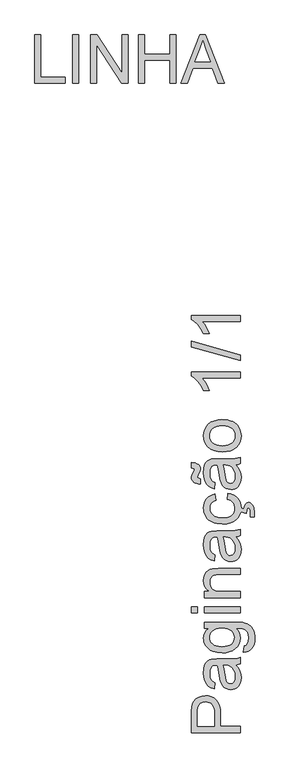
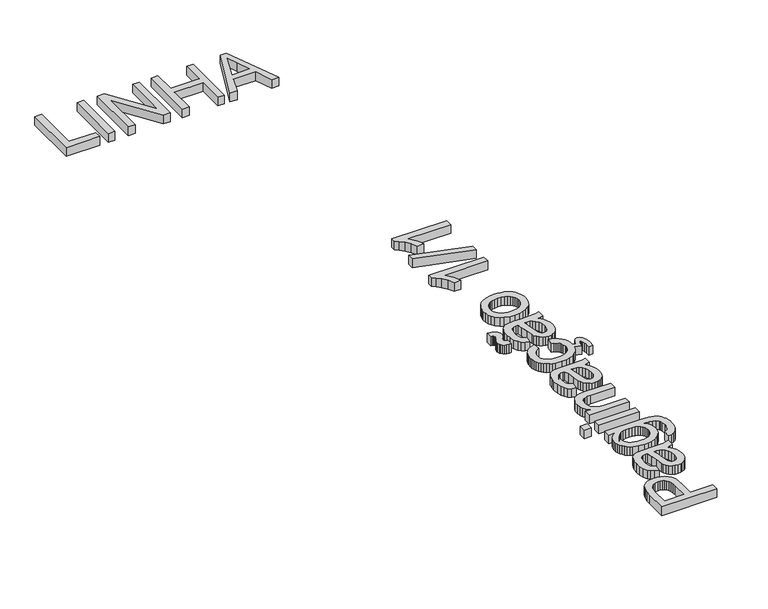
"""IFC4 building model written with IfcOpenShell, lengths in millimetres: proxy geometry, Tabela3D-1linha : Tabela3D-1linha."""

from ifc_helpers import new_model, si_unit, origin, origin_with_axes, place, context, project, spatial, polyline, outline, extrude, source, transform, mapped, element, save


def generic_models_d50637af(model_context):
    return source(origin(), model_context, "Body", "SweptSolid", [
        extrude(outline(polyline([(2936.9308298, 5900.6929749), (2334.1929689, 5900.6929749), (2334.1929689, 6124.0709224), (2335.6277087, 6176.0894365), (2339.9319281, 6214.1284348), (2350.6556882, 6254.2827545), (2368.1116889, 6287.3369518), (2393.0908764, 6313.9532142), (2426.3841969, 6334.7937292), (2465.6555999, 6348.2582102), (2508.5690347, 6352.7463706), (2545.5687663, 6349.7159426), (2579.6070479, 6340.6246588), (2610.6838795, 6325.4725191), (2638.7992609, 6304.2595236), (2662.1045853, 6275.1370651), (2678.7512456, 6236.2565368), (2688.7392418, 6187.6179385), (2692.0685738, 6129.2212703), (2692.0685738, 5976.0352075), (2936.9308298, 5976.0352075), (2936.9308298, 5900.6929749)]), holes=[polyline([(2616.7263412, 5976.0352075), (2616.7263412, 6133.6358542), (2614.9972959, 6169.8722307), (2609.8101597, 6200.4432245), (2601.1649328, 6225.3488356), (2589.0616152, 6244.589064), (2573.8221035, 6258.9456588), (2555.7682946, 6269.2003694), (2534.9001885, 6275.3531958), (2511.217785, 6277.4041379), (2477.3726415, 6272.5664897), (2448.8249986, 6258.053545), (2427.3406901, 6235.6679256), (2414.6855495, 6207.2122533), (2410.8227885, 6178.1495756), (2409.5352016, 6131.8700206), (2409.5352016, 5976.0352075), (2616.7263412, 5976.0352075)])]), origin_with_axes(), (0.0, 0.0, 1.0), 100.0),
        extrude(outline(polyline([(2880.4241554, 6729.4575336), (2911.2894548, 6693.4602804), (2931.4861763, 6656.3961694), (2942.6330008, 6617.419072), (2946.3486089, 6575.6828596), (2944.1137258, 6542.1366202), (2937.4090764, 6512.7198562), (2926.2346608, 6487.4325675), (2910.590479, 6466.2747543), (2891.4698123, 6449.5683132), (2869.8659421, 6437.6351409), (2845.7788685, 6430.4752376), (2819.2085914, 6428.0886032), (2787.97541, 6431.6938467), (2759.6117082, 6442.5095774), (2735.3314965, 6459.1930259), (2716.3487855, 6480.4014229), (2702.0013877, 6505.3254281), (2691.6271155, 6533.155701), (2680.29635, 6598.3443905), (2668.3769734, 6675.3788803), (2654.3974575, 6729.0160752), (2637.6220386, 6729.4575336), (2603.9976242, 6724.2703975), (2591.5448187, 6717.7864773), (2581.9982809, 6708.7089891), (2572.4701372, 6693.018822), (2565.6643203, 6673.9073523), (2560.2196668, 6625.4205054), (2563.8433044, 6580.538902), (2574.7142174, 6549.195356), (2594.8189684, 6527.8214121), (2626.1441203, 6512.8486149), (2616.7263412, 6437.5063822), (2575.5235578, 6450.5845872), (2543.1499422, 6470.100727), (2518.3914839, 6497.8758176), (2500.0341724, 6535.730875), (2488.6666187, 6582.028824), (2484.8774342, 6635.13259), (2488.2251603, 6686.0658523), (2498.2683388, 6726.4409013), (2513.3698947, 6756.8831364), (2531.8927531, 6778.017957), (2554.7934073, 6792.034261), (2583.0283505, 6801.1209463), (2648.952804, 6804.7997662), (2742.6891364, 6804.7997662), (2873.5815503, 6808.625739), (2905.9367717, 6814.2911217), (2936.9308298, 6823.6353244), (2936.9308298, 6748.2930918), (2910.7376318, 6736.2265623), (2880.4241554, 6729.4575336)]), holes=[polyline([(2729.7396902, 6729.4575336), (2742.2844662, 6678.8369711), (2752.8426795, 6607.9093224), (2765.0563617, 6543.0885149), (2773.407283, 6526.2211254), (2784.9219894, 6513.7315316), (2798.7175643, 6506.0060097), (2813.9110907, 6503.4308358), (2836.3151042, 6509.0410362), (2854.6724157, 6525.8716375), (2866.9228862, 6553.5547576), (2871.0063763, 6591.7225146), (2866.4998219, 6632.1895341), (2852.9801585, 6667.947664), (2833.0593485, 6696.9367652), (2809.3493539, 6717.0966986), (2784.9219894, 6726.0362311), (2751.0768459, 6729.0160752), (2729.7396902, 6729.4575336)])]), origin_with_axes(), (0.0, 0.0, 1.0), 100.0),
        extrude(outline(polyline([(2974.6019461, 6889.5597779), (2984.0197252, 6964.9020105), (3007.5641729, 6973.2161436), (3023.7509807, 6989.329375), (3036.3325449, 7021.0040148), (3040.5263997, 7062.4643156), (3035.7807219, 7106.6837315), (3029.8486248, 7124.5444023), (3021.5436887, 7139.5723818), (2998.735005, 7162.3810655), (2968.2743758, 7176.3605814), (2935.8639721, 7180.4440715), (2880.4241554, 7181.5109293), (2905.1458255, 7156.4397713), (2922.8041612, 7128.4623456), (2933.3991627, 7097.5786521), (2936.9308298, 7063.7886908), (2932.8197485, 7022.4801413), (2920.4865047, 6986.1104075), (2899.9310982, 6954.6794896), (2871.1535291, 6928.1873874), (2836.6278039, 6907.1675299), (2798.8279288, 6892.153346), (2757.7539041, 6883.1448356), (2713.4057296, 6880.1419988), (2652.5764417, 6885.5314701), (2596.6399843, 6901.6998838), (2571.417075, 6913.6836397), (2549.2383892, 6928.0770228), (2530.1039269, 6944.8800329), (2514.0136882, 6964.0926701), (2501.2665771, 6985.4068332), (2492.1614977, 7008.5144211), (2486.69845, 7033.4154336), (2484.8774342, 7060.1098709), (2488.9977125, 7095.343769), (2501.3585475, 7127.3219114), (2521.9599393, 7156.0442982), (2550.8018877, 7181.5109293), (2494.2952132, 7181.5109293), (2494.2952132, 7256.8531619), (2876.4510298, 7256.8531619), (2964.6875264, 7251.702814), (2997.5071989, 7245.2648791), (3022.7944875, 7236.2517702), (3043.1889456, 7224.4473566), (3061.3301265, 7209.6355078), (3077.2180302, 7191.8162237), (3090.8526566, 7170.9895042), (3101.797146, 7147.3668816), (3109.6146384, 7121.159888), (3114.3051338, 7092.3685233), (3115.8686323, 7060.9927877), (3113.6659388, 7024.080428), (3107.0578585, 6990.8928735), (3096.0443913, 6961.4301242), (3080.6255372, 6935.6921801), (3060.782902, 6914.9022489), (3036.4980918, 6900.2835381), (3007.7711065, 6891.8360478), (2974.6019461, 6889.5597779)]), holes=[polyline([(2708.2553816, 6955.4842314), (2745.5080322, 6957.4937868), (2777.3620144, 6963.522453), (2803.8173284, 6973.57023), (2824.8739741, 6987.6371178), (2840.9366217, 7004.7390321), (2852.4099414, 7023.8918885), (2859.2939333, 7045.0956869), (2861.5885972, 7068.3504276), (2859.3077289, 7091.3752419), (2852.4651237, 7112.4778729), (2841.0607819, 7131.6583204), (2825.0947033, 7148.9165845), (2804.2449912, 7163.1766104), (2778.1897489, 7173.3623431), (2746.9289764, 7179.4737827), (2710.4626736, 7181.5109293), (2675.5184826, 7179.4140019), (2645.1452254, 7173.1232198), (2619.3429019, 7162.6385829), (2598.1115123, 7147.9600913), (2581.5338299, 7130.3293467), (2569.6926282, 7110.9879508), (2562.5879071, 7089.9359036), (2560.2196668, 7067.1732052), (2562.5511189, 7044.7921843), (2569.5454754, 7024.1494058), (2581.2027361, 7005.2448698), (2597.5229011, 6988.0785762), (2618.432394, 6973.8185504), (2643.8576384, 6963.6328176), (2673.7986343, 6957.521378), (2708.2553816, 6955.4842314)])]), origin_with_axes(), (0.0, 0.0, 1.0), 100.0),
        extrude(outline(polyline([(2409.5352016, 7369.8665108), (2334.1929689, 7369.8665108), (2334.1929689, 7445.2087434), (2409.5352016, 7445.2087434), (2409.5352016, 7369.8665108)])), origin_with_axes(), (0.0, 0.0, 1.0), 100.0),
        extrude(outline(polyline([(2936.9308298, 7369.8665108), (2494.2952132, 7369.8665108), (2494.2952132, 7445.2087434), (2936.9308298, 7445.2087434), (2936.9308298, 7369.8665108)])), origin_with_axes(), (0.0, 0.0, 1.0), 100.0),
        extrude(outline(polyline([(2936.9308298, 7558.2220923), (2494.2952132, 7558.2220923), (2494.2952132, 7633.564325), (2556.0993884, 7633.564325), (2524.9397834, 7659.7391289), (2502.6829227, 7691.1746454), (2489.3288063, 7727.8708744), (2484.8774342, 7769.827816), (2488.4642836, 7806.9655034), (2499.224832, 7840.9761938), (2515.81631, 7869.3398957), (2536.8959483, 7889.5366172), (2562.4085646, 7903.2402215), (2592.2989768, 7912.1245717), (2665.1396118, 7916.0976973), (2936.9308298, 7916.0976973), (2936.9308298, 7840.7554646), (2675.2931549, 7840.7554646), (2636.3344516, 7838.5849609), (2608.6329373, 7832.0734496), (2588.7857037, 7820.0621024), (2573.3898422, 7801.3920912), (2563.5122106, 7777.4613674), (2560.2196668, 7749.6678826), (2562.0682738, 7726.7902211), (2567.6140949, 7705.5404373), (2576.85713, 7685.9185314), (2589.7973792, 7667.9245033), (2607.9063704, 7652.8919253), (2632.6556316, 7642.1543695), (2664.0451629, 7635.7118361), (2702.0749641, 7633.564325), (2936.9308298, 7633.564325), (2936.9308298, 7558.2220923)])), origin_with_axes(), (0.0, 0.0, 1.0), 100.0),
        extrude(outline(polyline([(2880.4241554, 8302.2266394), (2911.2894548, 8266.2293862), (2931.4861763, 8229.1652752), (2942.6330008, 8190.1881778), (2946.3486089, 8148.4519654), (2944.1137258, 8114.905726), (2937.4090764, 8085.4889619), (2926.2346608, 8060.2016733), (2910.590479, 8039.04386), (2891.4698123, 8022.3374189), (2869.8659421, 8010.4042467), (2845.7788685, 8003.2443434), (2819.2085914, 8000.8577089), (2787.97541, 8004.4629525), (2759.6117082, 8015.2786832), (2735.3314965, 8031.9621316), (2716.3487855, 8053.1705287), (2702.0013877, 8078.0945338), (2691.6271155, 8105.9248068), (2680.29635, 8171.1134963), (2668.3769734, 8248.1479861), (2654.3974575, 8301.785181), (2637.6220386, 8302.2266394), (2603.9976242, 8297.0395033), (2591.5448187, 8290.5555831), (2581.9982809, 8281.4780949), (2572.4701372, 8265.7879278), (2565.6643203, 8246.6764581), (2560.2196668, 8198.1896112), (2563.8433044, 8153.3080077), (2574.7142174, 8121.9644618), (2594.8189684, 8100.5905178), (2626.1441203, 8085.6177206), (2616.7263412, 8010.275488), (2575.5235578, 8023.3536929), (2543.1499422, 8042.8698328), (2518.3914839, 8070.6449234), (2500.0341724, 8108.4999807), (2488.6666187, 8154.7979298), (2484.8774342, 8207.9016958), (2488.2251603, 8258.8349581), (2498.2683388, 8299.210007), (2513.3698947, 8329.6522421), (2531.8927531, 8350.7870628), (2554.7934073, 8364.8033668), (2583.0283505, 8373.8900521), (2648.952804, 8377.568872), (2742.6891364, 8377.568872), (2873.5815503, 8381.3948448), (2905.9367717, 8387.0602275), (2936.9308298, 8396.4044302), (2936.9308298, 8321.0621975), (2910.7376318, 8308.9956681), (2880.4241554, 8302.2266394)]), holes=[polyline([(2729.7396902, 8302.2266394), (2742.2844662, 8251.6060769), (2752.8426795, 8180.6784282), (2765.0563617, 8115.8576206), (2773.407283, 8098.9902312), (2784.9219894, 8086.5006374), (2798.7175643, 8078.7751155), (2813.9110907, 8076.1999416), (2836.3151042, 8081.810142), (2854.6724157, 8098.6407433), (2866.9228862, 8126.3238634), (2871.0063763, 8164.4916204), (2866.4998219, 8204.9586399), (2852.9801585, 8240.7167698), (2833.0593485, 8269.705871), (2809.3493539, 8289.8658044), (2784.9219894, 8298.8053368), (2751.0768459, 8301.785181), (2729.7396902, 8302.2266394)])]), origin_with_axes(), (0.0, 0.0, 1.0), 100.0),
        extrude(outline(polyline([(2776.8285855, 8763.6978141), (2786.2463646, 8839.0400468), (2821.7975609, 8830.8454753), (2853.25607, 8818.0339848), (2880.621892, 8800.6055753), (2903.8950267, 8778.5602467), (2922.4684689, 8752.8269012), (2935.7352134, 8724.3344407), (2943.69526, 8693.0828652), (2946.3486089, 8659.0721747), (2946.1709626, 8657.0443586), (2977.8393077, 8646.5641869), (2984.7554892, 8680.5013009), (2997.8520882, 8705.4988825), (3014.958601, 8720.894744), (3033.9045238, 8726.0266978), (3047.8288573, 8724.1688938), (3060.9070622, 8718.5954815), (3073.1391386, 8709.3064612), (3084.5250863, 8696.3018326), (3094.1176093, 8679.5448077), (3100.9694115, 8658.9985983), (3106.4508532, 8606.5386258), (3106.4508532, 8547.0888954), (3059.3619578, 8547.0888954), (3059.3619578, 8588.7331372), (3057.1914541, 8624.1969616), (3050.6799427, 8647.2999509), (3043.3223028, 8656.9016709), (3034.493135, 8660.1022443), (3023.8245571, 8654.9518964), (3015.878306, 8635.895609), (3012.2730625, 8591.823346), (2941.1816396, 8611.8178087), (2931.5413586, 8578.9290821), (2913.0322957, 8545.4104338), (2887.1196077, 8516.2603842), (2854.2907381, 8492.6653527), (2815.0331307, 8475.8117588), (2769.3467855, 8465.6996025), (2717.2317023, 8462.3288837), (2650.1852087, 8468.0862369), (2620.0142866, 8475.2829284), (2592.0782476, 8485.3582966), (2566.9381117, 8498.3813192), (2545.1548991, 8514.4209742), (2526.7286096, 8533.4772616), (2511.6592434, 8555.5501813), (2499.9422019, 8579.6418534), (2491.5728865, 8604.7543981), (2486.5512972, 8630.8878154), (2484.8774342, 8658.0421051), (2487.1766966, 8691.4687829), (2494.074484, 8721.7040844), (2505.5707964, 8748.7480096), (2521.6656337, 8772.6005584), (2541.9911139, 8792.8570608), (2566.1793551, 8809.1128464), (2594.2303572, 8821.3679154), (2626.1441203, 8829.6222677), (2635.5618994, 8754.2800351), (2602.6916431, 8740.6132189), (2579.1288013, 8719.3312455), (2564.9469504, 8691.6113372), (2560.2196668, 8658.6307163), (2562.5465204, 8633.030728), (2569.5270813, 8609.9415343), (2581.1613494, 8589.3631352), (2597.4493247, 8571.2955307), (2618.7680863, 8556.5848494), (2645.4947133, 8546.0772199), (2677.6292055, 8539.7726422), (2715.1715631, 8537.6711163), (2753.2795393, 8539.726657), (2785.7865121, 8545.8932789), (2812.6924815, 8556.1709821), (2833.9974476, 8570.5597667), (2850.1888539, 8588.2686862), (2861.7541441, 8608.5067945), (2868.6933183, 8631.2740915), (2871.0063763, 8656.5705771), (2865.230629, 8695.5844627), (2858.0109448, 8712.4564507), (2847.903387, 8727.5718022), (2834.7975909, 8740.5074529), (2818.583192, 8750.8403384), (2799.2601902, 8758.5704588), (2776.8285855, 8763.6978141)])), origin_with_axes(), (0.0, 0.0, 1.0), 100.0),
        extrude(outline(polyline([(2447.2063179, 8952.0533957), (2422.7513622, 8953.405362), (2400.8899747, 8957.7555666), (2381.6221552, 8965.1040095), (2364.9479037, 8975.4506906), (2351.4926198, 8987.9678755), (2341.8817026, 9002.1221352), (2336.1151524, 9017.9134699), (2334.1929689, 9035.3418794), (2340.2630219, 9063.1537582), (2358.4731806, 9095.6745266), (2368.5163591, 9112.8546158), (2371.8640852, 9126.1351558), (2369.969493, 9135.3505998), (2364.2857161, 9142.1012344), (2352.9733448, 9146.7917298), (2334.1929689, 9149.8267563), (2334.1929689, 9215.7512098), (2383.6363091, 9209.1845162), (2403.0604784, 9201.859066), (2418.9529806, 9191.8388801), (2431.3138157, 9179.7033728), (2440.1429836, 9166.0319582), (2445.4404843, 9150.8246362), (2447.2063179, 9134.0814069), (2441.4673587, 9106.0855871), (2424.2504814, 9074.4845237), (2413.2140215, 9055.6489655), (2409.5352016, 9042.6995193), (2411.9264345, 9032.693129), (2419.1001334, 9024.7468779), (2430.8355691, 9019.5229536), (2447.2063179, 9017.9778492), (2447.2063179, 8952.0533957)])), origin_with_axes(), (0.0, 0.0, 1.0), 100.0),
        extrude(outline(polyline([(2880.4241554, 9187.4978726), (2911.2894548, 9151.5006194), (2931.4861763, 9114.4365083), (2942.6330008, 9075.459411), (2946.3486089, 9033.7231986), (2944.1137258, 9000.1769592), (2937.4090764, 8970.7601951), (2926.2346608, 8945.4729065), (2910.590479, 8924.3150932), (2891.4698123, 8907.6086521), (2869.8659421, 8895.6754799), (2845.7788685, 8888.5155766), (2819.2085914, 8886.1289421), (2787.97541, 8889.7341857), (2759.6117082, 8900.5499163), (2735.3314965, 8917.2333648), (2716.3487855, 8938.4417619), (2702.0013877, 8963.365767), (2691.6271155, 8991.19604), (2680.29635, 9056.3847295), (2668.3769734, 9133.4192193), (2654.3974575, 9187.0564142), (2637.6220386, 9187.4978726), (2603.9976242, 9182.3107365), (2591.5448187, 9175.8268163), (2581.9982809, 9166.7493281), (2572.4701372, 9151.059161), (2565.6643203, 9131.9476913), (2560.2196668, 9083.4608444), (2563.8433044, 9038.5792409), (2574.7142174, 9007.2356949), (2594.8189684, 8985.861751), (2626.1441203, 8970.8889538), (2616.7263412, 8895.5467212), (2575.5235578, 8908.6249261), (2543.1499422, 8928.141066), (2518.3914839, 8955.9161566), (2500.0341724, 8993.7712139), (2488.6666187, 9040.069163), (2484.8774342, 9093.172929), (2488.2251603, 9144.1061913), (2498.2683388, 9184.4812402), (2513.3698947, 9214.9234753), (2531.8927531, 9236.0582959), (2554.7934073, 9250.0746), (2583.0283505, 9259.1612852), (2648.952804, 9262.8401052), (2742.6891364, 9262.8401052), (2873.5815503, 9266.6660779), (2905.9367717, 9272.3314607), (2936.9308298, 9281.6756634), (2936.9308298, 9206.3334307), (2910.7376318, 9194.2669013), (2880.4241554, 9187.4978726)]), holes=[polyline([(2729.7396902, 9187.4978726), (2742.2844662, 9136.8773101), (2752.8426795, 9065.9496614), (2765.0563617, 9001.1288538), (2773.407283, 8984.2614644), (2784.9219894, 8971.7718706), (2798.7175643, 8964.0463487), (2813.9110907, 8961.4711747), (2836.3151042, 8967.0813752), (2854.6724157, 8983.9119765), (2866.9228862, 9011.5950966), (2871.0063763, 9049.7628536), (2866.4998219, 9090.2298731), (2852.9801585, 9125.988003), (2833.0593485, 9154.9771042), (2809.3493539, 9175.1370375), (2784.9219894, 9184.07657), (2751.0768459, 9187.0564142), (2729.7396902, 9187.4978726)])]), origin_with_axes(), (0.0, 0.0, 1.0), 100.0),
        extrude(outline(polyline([(2715.6130215, 9347.6001169), (2658.2878096, 9351.67441), (2608.8904547, 9363.8972893), (2567.4209568, 9384.2687548), (2533.8793159, 9412.7888064), (2512.4409927, 9441.5019962), (2497.1279046, 9473.19503), (2487.9400518, 9507.8679081), (2484.8774342, 9545.5206303), (2488.6068379, 9587.0866972), (2499.7950491, 9624.6704416), (2518.4420677, 9658.2718633), (2544.5478938, 9687.8909624), (2577.2296105, 9712.065408), (2615.6043012, 9729.3328692), (2659.6719656, 9739.6933459), (2709.432604, 9743.1468381), (2749.7616677, 9741.6201278), (2785.5473888, 9737.039997), (2816.7897673, 9729.4064456), (2843.4888031, 9718.7194736), (2866.5504056, 9705.1124383), (2886.8804844, 9688.7186969), (2904.4790393, 9669.5382494), (2919.3460705, 9647.5710958), (2931.159681, 9623.6725616), (2939.5979743, 9598.6979727), (2944.6609503, 9572.6473289), (2946.3486089, 9545.5206303), (2942.6330008, 9503.3475581), (2931.4861763, 9465.4143258), (2912.9081356, 9431.7209336), (2886.8988785, 9402.2673814), (2853.8998635, 9378.3504532), (2814.352549, 9361.266933), (2768.256935, 9351.0168209), (2715.6130215, 9347.6001169)]), holes=[polyline([(2715.4658687, 9422.9423495), (2752.0103464, 9425.1220503), (2783.6527965, 9431.6611528), (2810.3932191, 9442.5596569), (2832.231614, 9457.8175626), (2849.1955725, 9476.3772093), (2861.3126857, 9497.1809361), (2868.5829537, 9520.2287431), (2871.0063763, 9545.5206303), (2868.5691581, 9570.6837588), (2861.2575034, 9593.6395953), (2849.0714123, 9614.3881398), (2832.0108848, 9632.9293923), (2809.9563592, 9648.1872981), (2782.7882739, 9659.0858022), (2750.5066288, 9665.6249047), (2713.111424, 9667.8046055), (2677.7257746, 9665.6111091), (2646.9110589, 9659.0306199), (2620.6672771, 9648.0631379), (2598.9944291, 9632.7086631), (2582.0304706, 9614.0984327), (2569.9133574, 9593.3636838), (2562.6430894, 9570.5044163), (2560.2196668, 9545.5206303), (2562.6338924, 9520.2287431), (2569.8765692, 9497.1809361), (2581.9476971, 9476.3772093), (2598.8472763, 9457.8175626), (2620.6212919, 9442.5596569), (2647.3157291, 9431.6611528), (2678.9305881, 9425.1220503), (2715.4658687, 9422.9423495)])]), origin_with_axes(), (0.0, 0.0, 1.0), 100.0),
        extrude(outline(polyline([(2936.9308298, 10327.0491408), (2936.9308298, 10251.7069082), (2467.2190984, 10251.7069082), (2492.6581384, 10220.2529976), (2518.0603901, 10180.3378012), (2540.2620685, 10138.4360419), (2556.0993884, 10101.022443), (2484.8774342, 10101.022443), (2452.6877596, 10160.1962619), (2414.3912439, 10211.460618), (2373.666707, 10251.8724551), (2334.1929689, 10278.4887175), (2334.1929689, 10327.0491408), (2936.9308298, 10327.0491408)])), origin_with_axes(), (0.0, 0.0, 1.0), 100.0),
        extrude(outline(polyline([(2936.9308298, 10468.315827), (2334.1929689, 10637.8358504), (2334.1929689, 10705.8204431), (2936.9308298, 10536.3004197), (2936.9308298, 10468.315827)])), origin_with_axes(), (0.0, 0.0, 1.0), 100.0),
        extrude(outline(polyline([(2936.9308298, 11023.9647925), (2936.9308298, 10948.6225599), (2467.2190984, 10948.6225599), (2492.6581384, 10917.1686493), (2518.0603901, 10877.2534528), (2540.2620685, 10835.3516936), (2556.0993884, 10797.9380947), (2484.8774342, 10797.9380947), (2452.6877596, 10857.1119136), (2414.3912439, 10908.3762696), (2373.666707, 10948.7881068), (2334.1929689, 10975.4043691), (2334.1929689, 11023.9647925), (2936.9308298, 11023.9647925)])), origin_with_axes(), (0.0, 0.0, 1.0), 100.0),
        extrude(outline(polyline([(411.2175733, 13876.9139754), (411.2175733, 14467.6832062), (485.0637272, 14467.6832062), (485.0637272, 13950.7601293), (780.4483426, 13950.7601293), (780.4483426, 13876.9139754), (411.2175733, 13876.9139754)])), origin_with_axes(), (0.0, 0.0, 1.0), 100.0),
        extrude(outline(polyline([(872.7560349, 13876.9139754), (872.7560349, 14467.6832062), (946.6021887, 14467.6832062), (946.6021887, 13876.9139754), (872.7560349, 13876.9139754)])), origin_with_axes(), (0.0, 0.0, 1.0), 100.0),
        extrude(outline(polyline([(1094.2944964, 13876.9139754), (1094.2944964, 14467.6832062), (1173.332958, 14467.6832062), (1481.9868041, 13999.65436), (1481.9868041, 14467.6832062), (1555.832958, 14467.6832062), (1555.832958, 13876.9139754), (1476.7944964, 13876.9139754), (1168.1406503, 14345.0870523), (1168.1406503, 13876.9139754), (1094.2944964, 13876.9139754)])), origin_with_axes(), (0.0, 0.0, 1.0), 100.0),
        extrude(outline(polyline([(1685.0637272, 13876.9139754), (1685.0637272, 14467.6832062), (1758.909881, 14467.6832062), (1758.909881, 14227.6832062), (2072.7560349, 14227.6832062), (2072.7560349, 14467.6832062), (2146.6021887, 14467.6832062), (2146.6021887, 13876.9139754), (2072.7560349, 13876.9139754), (2072.7560349, 14153.8370523), (1758.909881, 14153.8370523), (1758.909881, 13876.9139754), (1685.0637272, 13876.9139754)])), origin_with_axes(), (0.0, 0.0, 1.0), 100.0),
        extrude(outline(polyline([(2207.034881, 13876.9139754), (2442.8521887, 14467.6832062), (2505.7368041, 14467.6832062), (2741.5541118, 13876.9139754), (2663.5252657, 13876.9139754), (2595.8810349, 14061.52936), (2352.5637272, 14061.52936), (2285.0637272, 13876.9139754), (2207.034881, 13876.9139754)]), holes=[polyline([(2379.6791118, 14135.3755139), (2568.909881, 14135.3755139), (2515.6887272, 14280.6158985), (2474.2944964, 14393.8370523), (2437.5156503, 14293.3082062), (2379.6791118, 14135.3755139)])]), origin_with_axes(), (0.0, 0.0, 1.0), 100.0),
    ])


if __name__ == "__main__":
    model = new_model("IFC4")
    model_context = context("Model", 3, world=origin())
    ifc_project = project(units=[si_unit("LENGTHUNIT", "METRE", prefix="MILLI")], contexts=[model_context])
    site = spatial("IfcSite", under=ifc_project)
    building = spatial("IfcBuilding", under=site)
    placement = place(None, origin())
    generic_models_shape = generic_models_d50637af(model_context)
    element("IfcBuildingElementProxy", 1, Name="Tabela3D-1linha : Tabela3D-1linha", ObjectType="Tabela3D-1linha : Tabela3D-1linha", at=placement, inside=building, context=model_context, shape_type="MappedRepresentation", body=[
        mapped(generic_models_shape, transform((0.0, 0.0, 0.0), x_axis=(1.0, 0.0, 0.0), y_axis=(0.0, 1.0, 0.0), z_axis=(0.0, 0.0, 1.0))),
    ])
    save(model, "model.ifc")
